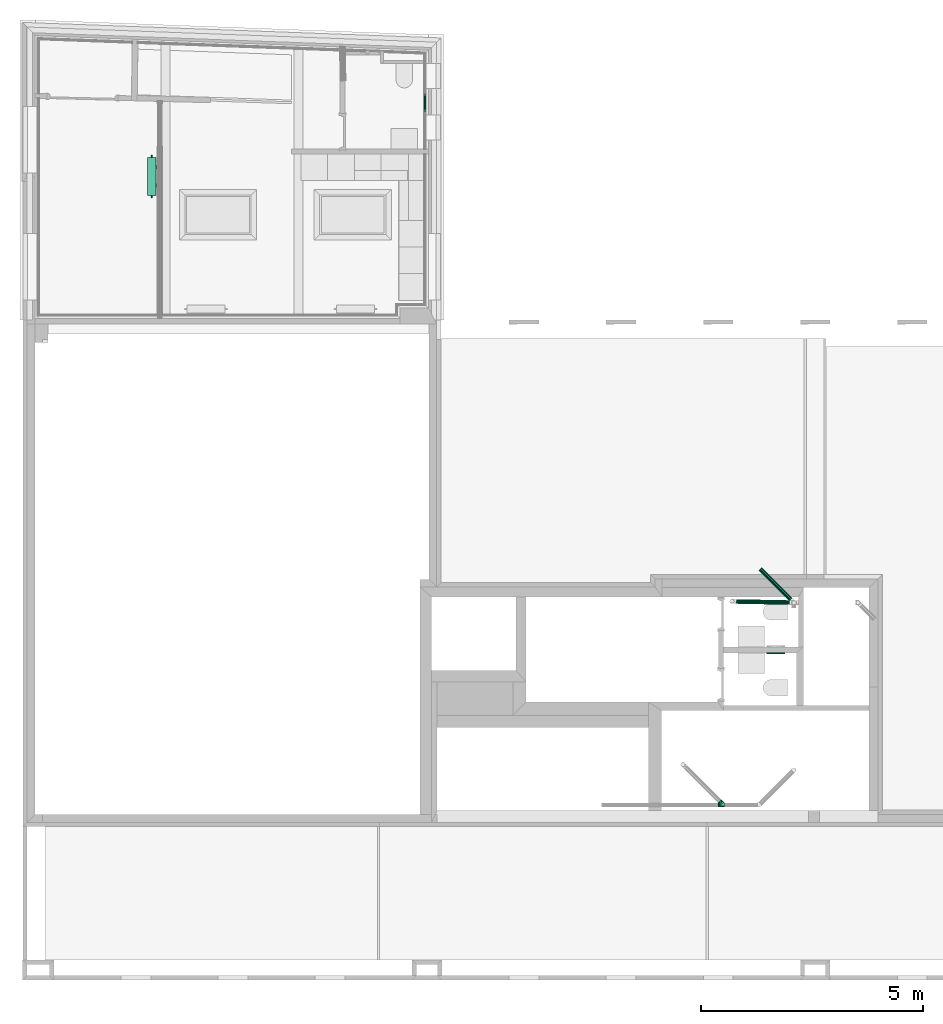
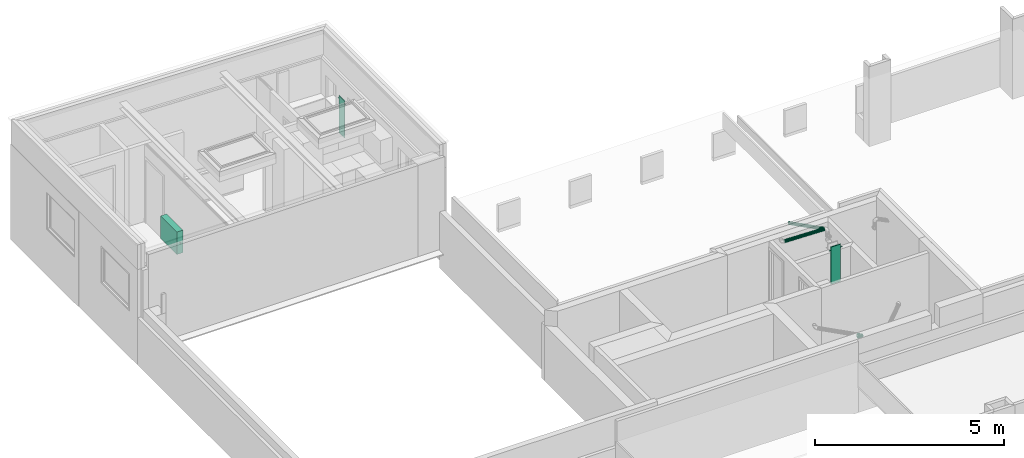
# One storey, part 13 of 22: 3 flow terminals, 2 flow segments, 1 flow fitting.
"""IFC2X3 building model written with IfcOpenShell, lengths in metres."""

import ifcopenshell
import ifcopenshell.guid

model = None  # the IFC model being written
_history = None  # IfcOwnerHistory: only IFC2X3 demands one
_inside = {}  # id of a spatial element -> (the spatial element, [elements in it])
_under = {}  # id of a project, library or spatial element -> (it, [spatial elements below it])
_declared = {}  # id of a project -> (the project, [libraries it declares])
_typed = {}  # id of a type object -> (the type object, [elements of that type])
_made_of = {}  # id of a material, layer set ... -> (it, [elements and type objects made of it])


def new_model(schema):
    """Start an empty IFC model of exactly this schema.

    Asked for "IFC4X3", IfcOpenShell would pick the latest addendum, in which some entities
    have other attributes; the version numbers below select the first issue.
    IFC2X3 requires an IfcOwnerHistory on every rooted entity: one is made here for all.
    """
    global model, _history
    if schema == "IFC4X3":
        model = ifcopenshell.file(schema_version=(4, 3, 0, 0))
    else:
        model = ifcopenshell.file(schema=schema)
    _inside.clear()
    _under.clear()
    _declared.clear()
    _typed.clear()
    _made_of.clear()
    _history = None
    if model.schema == "IFC2X3":
        org = make("IfcOrganization", Name="unknown")
        user = make(
            "IfcPersonAndOrganization",
            ThePerson=make("IfcPerson", FamilyName="unknown"),
            TheOrganization=org,
        )
        app = make(
            "IfcApplication",
            ApplicationDeveloper=org,
            Version="unknown",
            ApplicationFullName="unknown",
            ApplicationIdentifier="unknown",
        )
        _history = make(
            "IfcOwnerHistory",
            OwningUser=user,
            OwningApplication=app,
            ChangeAction="ADDED",
            CreationDate=0,
        )
    return model


def make(cls, **values):
    """One entity of the class cls with the attributes given. An attribute that is None is left unset."""
    return model.create_entity(
        cls, **{name: value for name, value in values.items() if value is not None}
    )


def entity(cls, *values):
    """Any entity or typed value of the class cls, its attributes in the order of the schema. None: left unset."""
    e = model.create_entity(cls)
    for i, value in enumerate(values):
        if value is not None:
            e[i] = value
    return e


def rooted(cls, **values):
    """An entity with a GlobalId (a new one), such as an element, a storey or a relation."""
    return make(cls, GlobalId=ifcopenshell.guid.new(), OwnerHistory=_history, **values)


def si_unit(unit_type, name, prefix=None):
    """IfcSIUnit, for example si_unit("LENGTHUNIT", "METRE", prefix="MILLI")."""
    return make("IfcSIUnit", UnitType=unit_type, Prefix=prefix, Name=name)


def converted_unit(unit_type, name, factor, base, dimensions=None, offset=None):
    """IfcConversionBasedUnit, such as the inch: factor (a typed value) times the base unit."""
    return make(
        "IfcConversionBasedUnit"
        if offset is None
        else "IfcConversionBasedUnitWithOffset",
        ConversionOffset=offset,
        Dimensions=None
        if dimensions is None
        else entity("IfcDimensionalExponents", *dimensions),
        UnitType=unit_type,
        Name=name,
        ConversionFactor=make(
            "IfcMeasureWithUnit", ValueComponent=factor, UnitComponent=base
        ),
    )


def derived_unit(unit_type, elements):
    """IfcDerivedUnit: a product of units, each with its exponent."""
    return make(
        "IfcDerivedUnit",
        Elements=[
            make("IfcDerivedUnitElement", Unit=unit, Exponent=power)
            for unit, power in elements
        ],
        UnitType=unit_type,
    )


def money_unit(currency):
    """IfcMonetaryUnit."""
    return make("IfcMonetaryUnit", Currency=currency)


def assignment(units):
    """IfcUnitAssignment: the units of a project."""
    return None if units is None else make("IfcUnitAssignment", Units=units)


def point(xyz):
    """IfcCartesianPoint."""
    return None if xyz is None else make("IfcCartesianPoint", Coordinates=xyz)


def direction(xyz):
    """IfcDirection."""
    return None if xyz is None else make("IfcDirection", DirectionRatios=xyz)


def frame(location, z_axis=None, x_axis=None):
    """IfcAxis2Placement3D, a coordinate frame: its origin and axes. An axis left out is left unset."""
    return make(
        "IfcAxis2Placement3D",
        Location=point(location),
        Axis=direction(z_axis),
        RefDirection=direction(x_axis),
    )


def origin_with_axes():
    """The frame at (0, 0, 0) with the z axis (0, 0, 1) and the x axis (1, 0, 0) written out."""
    return frame((0.0, 0.0, 0.0), z_axis=(0.0, 0.0, 1.0), x_axis=(1.0, 0.0, 0.0))


def place(relative_to, where):
    """IfcLocalPlacement: puts the frame where relative to a parent placement (None: the world)."""
    return make(
        "IfcLocalPlacement", PlacementRelTo=relative_to, RelativePlacement=where
    )


def context(
    kind, dimensions, precision=None, world=None, true_north=None, identifier=None
):
    """IfcGeometricRepresentationContext, for example the 3D "Model" context."""
    return make(
        "IfcGeometricRepresentationContext",
        ContextIdentifier=identifier,
        ContextType=kind,
        CoordinateSpaceDimension=dimensions,
        Precision=precision,
        WorldCoordinateSystem=world,
        TrueNorth=true_north,
    )


def subcontext(parent, identifier, kind, view, scale=None):
    """IfcGeometricRepresentationSubContext, for example "Body" below "Model"."""
    return make(
        "IfcGeometricRepresentationSubContext",
        ContextIdentifier=identifier,
        ContextType=kind,
        ParentContext=parent,
        TargetScale=scale,
        TargetView=view,
    )


def project(units=None, contexts=None):
    """IfcProject with its units and contexts."""
    return rooted(
        "IfcProject",
        Name="project",
        RepresentationContexts=contexts,
        UnitsInContext=assignment(units),
    )


def spatial(cls, under=None, at=None, **own):
    """A site, building, storey or space (cls), placed at a placement, below another one or the project."""
    s = rooted(cls, ObjectPlacement=at, **own)
    if under is not None:
        _under.setdefault(under.id(), (under, []))[1].append(s)
    return s


def faces_of(points, faces, orient=None, outer=None):
    """IfcFace entities. A face is a list of loops; a loop is a list of indices into points, from 0.

    orient and outer hold one flag for each loop. By default every Orientation is true, the
    first loop of a face is its IfcFaceOuterBound and the others are IfcFaceBound.
    """
    made = []
    for i, loops in enumerate(faces):
        bounds = []
        for j, loop in enumerate(loops):
            is_outer = j == 0 if outer is None else outer[i][j]
            bounds.append(
                make(
                    "IfcFaceOuterBound" if is_outer else "IfcFaceBound",
                    Bound=make("IfcPolyLoop", Polygon=[points[k] for k in loop]),
                    Orientation=True if orient is None else orient[i][j],
                )
            )
        made.append(make("IfcFace", Bounds=bounds))
    return made


def open_shell(faces, orient=None, outer=None):
    """The faces of one IfcOpenShell. surface_model builds it on its shared points."""
    return ("IfcOpenShell", faces, orient, outer)


def faceted_brep(points, faces, orient=None, outer=None, voids=None):
    """IfcFacetedBrep: a solid bounded by flat faces; with voids (closed shells), ...WithVoids."""
    shared = [point(p) for p in points]
    hull = make("IfcClosedShell", CfsFaces=faces_of(shared, faces, orient, outer))
    if voids is None:
        return make("IfcFacetedBrep", Outer=hull)
    return make(
        "IfcFacetedBrepWithVoids",
        Outer=hull,
        Voids=[
            make(cls, CfsFaces=faces_of(shared, fs, o, b)) for cls, fs, o, b in voids
        ],
    )


def surface_model(cls, points, shells):
    """IfcFaceBasedSurfaceModel or IfcShellBasedSurfaceModel (cls): surfaces that need not close."""
    shared = [point(p) for p in points]
    made = [make(c, CfsFaces=faces_of(shared, fs, o, b)) for c, fs, o, b in shells]
    if cls == "IfcFaceBasedSurfaceModel":
        return make(cls, FbsmFaces=made)
    return make(cls, SbsmBoundary=made)


def shape(context_of_items, identifier, shape_type, items):
    """IfcShapeRepresentation: the items that make up one representation, for example the "Body"."""
    return make(
        "IfcShapeRepresentation",
        ContextOfItems=context_of_items,
        RepresentationIdentifier=identifier,
        RepresentationType=shape_type,
        Items=items,
    )


def material(Name=None, Category=None):
    """IfcMaterial."""
    return make("IfcMaterial", Name=Name, Category=Category)


def made_of(thing, what):
    """Note that an element or type object is made of a material, layer set ...; save() writes the relation."""
    if what is not None:
        _made_of.setdefault(what.id(), (what, []))[1].append(thing)
    return thing


def type_object(cls, material=None, **own):
    """A type object (cls), such as IfcWallType, which elements share."""
    return made_of(rooted(cls, **own), material)


def element(
    cls,
    number,
    at=None,
    inside=None,
    cuts=None,
    type_object=None,
    material=None,
    context=None,
    identifier="Body",
    shape_type=None,
    held_by="IfcProductDefinitionShape",
    body=None,
    shapes=None,
    **own,
):
    """One element of the class cls, such as IfcWall. Its Tag is "e" and its number.

    at: its placement. inside: the storey or other place that contains it. cuts: it is an
    opening in that element (IfcRelVoidsElement). A single representation is given by context,
    identifier, shape_type and body (its items); several are given by shapes. held_by: the class
    of the entity that holds the representations. save() writes the other relations.
    """
    e = rooted(cls, Tag="e%d" % number, ObjectPlacement=at, **own)
    if body is not None:
        shapes = [shape(context, identifier, shape_type, body)]
    if shapes is not None:
        e.Representation = make(held_by, Representations=shapes)
    if inside is not None:
        _inside.setdefault(inside.id(), (inside, []))[1].append(e)
    if cuts is not None:
        rooted(
            "IfcRelVoidsElement", RelatingBuildingElement=cuts, RelatedOpeningElement=e
        )
    if type_object is not None:
        _typed.setdefault(type_object.id(), (type_object, []))[1].append(e)
    return made_of(e, material)


def aggregate(whole, parts):
    """IfcRelAggregates: a whole, such as a stair, and the parts it consists of."""
    return rooted("IfcRelAggregates", RelatingObject=whole, RelatedObjects=parts)


def save(model, path):
    """Write the relations noted so far, then the file.

    IfcRelAggregates (storeys below a building ...), IfcRelContainedInSpatialStructure (elements
    in a storey), IfcRelDefinesByType, IfcRelAssociatesMaterial and IfcRelDeclares: one each for
    every whole, place, type object, material and project.
    """
    for whole, parts in _under.values():
        aggregate(whole, parts)
    for where, things in _inside.values():
        rooted(
            "IfcRelContainedInSpatialStructure",
            RelatedElements=things,
            RelatingStructure=where,
        )
    for kind, things in _typed.values():
        rooted("IfcRelDefinesByType", RelatedObjects=things, RelatingType=kind)
    for what, things in _made_of.values():
        rooted("IfcRelAssociatesMaterial", RelatedObjects=things, RelatingMaterial=what)
    for by, libraries in _declared.values():
        rooted("IfcRelDeclares", RelatingContext=by, RelatedDefinitions=libraries)
    model.write(path)


model = new_model("IFC2X3")

# Units and contexts
model_context = context("Model", 3, precision=1e-05, world=origin_with_axes(), true_north=direction((0.0, 1.0)))
body_context = subcontext(model_context, "Body", "Model", "MODEL_VIEW", scale=1.0)
ifc_project = project(units=[si_unit("LENGTHUNIT", "METRE"), si_unit("AREAUNIT", "SQUARE_METRE"), si_unit("VOLUMEUNIT", "CUBIC_METRE"), si_unit("ABSORBEDDOSEUNIT", "GRAY"), si_unit("AMOUNTOFSUBSTANCEUNIT", "MOLE"), si_unit("DOSEEQUIVALENTUNIT", "SIEVERT"), si_unit("ELECTRICCAPACITANCEUNIT", "FARAD"), si_unit("ELECTRICCHARGEUNIT", "COULOMB"), si_unit("ELECTRICCONDUCTANCEUNIT", "SIEMENS"), si_unit("ELECTRICCURRENTUNIT", "AMPERE"), si_unit("ELECTRICRESISTANCEUNIT", "OHM"), si_unit("ELECTRICVOLTAGEUNIT", "VOLT"), si_unit("ENERGYUNIT", "JOULE"), si_unit("FORCEUNIT", "NEWTON"), si_unit("FREQUENCYUNIT", "HERTZ"), si_unit("ILLUMINANCEUNIT", "LUX"), si_unit("INDUCTANCEUNIT", "HENRY"), si_unit("LUMINOUSFLUXUNIT", "LUMEN"), si_unit("LUMINOUSINTENSITYUNIT", "CANDELA"), si_unit("MAGNETICFLUXDENSITYUNIT", "TESLA"), si_unit("MAGNETICFLUXUNIT", "WEBER"), si_unit("MASSUNIT", "GRAM"), converted_unit("PLANEANGLEUNIT", "degree", entity("IfcReal", 0.0174532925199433), si_unit("PLANEANGLEUNIT", "RADIAN"), dimensions=[0, 0, 0, 0, 0, 0, 0]), si_unit("POWERUNIT", "WATT"), si_unit("PRESSUREUNIT", "PASCAL"), si_unit("RADIOACTIVITYUNIT", "BECQUEREL"), si_unit("SOLIDANGLEUNIT", "STERADIAN"), si_unit("THERMODYNAMICTEMPERATUREUNIT", "KELVIN"), si_unit("TIMEUNIT", "SECOND"), derived_unit("ACCELERATIONUNIT", [(si_unit("LENGTHUNIT", "METRE"), 1), (si_unit("TIMEUNIT", "SECOND"), -2)]), derived_unit("ANGULARVELOCITYUNIT", [(converted_unit("PLANEANGLEUNIT", "degree", entity("IfcReal", 0.0174532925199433), si_unit("PLANEANGLEUNIT", "RADIAN"), dimensions=[0, 0, 0, 0, 0, 0, 0]), 1), (si_unit("TIMEUNIT", "SECOND"), -1)]), derived_unit("CURVATUREUNIT", [(converted_unit("PLANEANGLEUNIT", "degree", entity("IfcReal", 0.0174532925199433), si_unit("PLANEANGLEUNIT", "RADIAN"), dimensions=[0, 0, 0, 0, 0, 0, 0]), 1), (si_unit("LENGTHUNIT", "METRE"), -1)]), derived_unit("DYNAMICVISCOSITYUNIT", [(si_unit("PRESSUREUNIT", "PASCAL"), 1), (si_unit("TIMEUNIT", "SECOND"), 1)]), derived_unit("HEATFLUXDENSITYUNIT", [(si_unit("POWERUNIT", "WATT"), 1), (si_unit("LENGTHUNIT", "METRE"), -2)]), derived_unit("HEATINGVALUEUNIT", [(si_unit("ENERGYUNIT", "JOULE"), 1), (si_unit("MASSUNIT", "GRAM"), -1)]), derived_unit("INTEGERCOUNTRATEUNIT", [(si_unit("TIMEUNIT", "SECOND"), -1)]), derived_unit("IONCONCENTRATIONUNIT", [(si_unit("MASSUNIT", "GRAM"), 1), (si_unit("VOLUMEUNIT", "CUBIC_METRE"), -1)]), derived_unit("ISOTHERMALMOISTURECAPACITYUNIT", [(si_unit("VOLUMEUNIT", "CUBIC_METRE"), 1), (si_unit("MASSUNIT", "GRAM"), -1)]), derived_unit("KINEMATICVISCOSITYUNIT", [(si_unit("AREAUNIT", "SQUARE_METRE"), 1), (si_unit("TIMEUNIT", "SECOND"), -1)]), derived_unit("LINEARFORCEUNIT", [(si_unit("FORCEUNIT", "NEWTON"), 1), (si_unit("LENGTHUNIT", "METRE"), -1)]), derived_unit("LINEARMOMENTUNIT", [(si_unit("FORCEUNIT", "NEWTON"), 1), (si_unit("LENGTHUNIT", "METRE"), -1)]), derived_unit("LINEARSTIFFNESSUNIT", [(si_unit("FORCEUNIT", "NEWTON"), 1), (si_unit("LENGTHUNIT", "METRE"), -1)]), derived_unit("LINEARVELOCITYUNIT", [(si_unit("LENGTHUNIT", "METRE"), 1), (si_unit("TIMEUNIT", "SECOND"), -1)]), derived_unit("LUMINOUSINTENSITYDISTRIBUTIONUNIT", [(si_unit("LUMINOUSINTENSITYUNIT", "CANDELA"), 1), (si_unit("LUMINOUSFLUXUNIT", "LUMEN"), -1)]), derived_unit("MASSDENSITYUNIT", [(si_unit("MASSUNIT", "GRAM"), 1), (si_unit("VOLUMEUNIT", "CUBIC_METRE"), -1)]), derived_unit("MASSFLOWRATEUNIT", [(si_unit("MASSUNIT", "GRAM"), 1), (si_unit("TIMEUNIT", "SECOND"), -1)]), derived_unit("MASSPERLENGTHUNIT", [(si_unit("MASSUNIT", "GRAM"), 1), (si_unit("LENGTHUNIT", "METRE"), -1)]), derived_unit("MODULUSOFELASTICITYUNIT", [(si_unit("FORCEUNIT", "NEWTON"), 1), (si_unit("AREAUNIT", "SQUARE_METRE"), -1)]), derived_unit("MODULUSOFLINEARSUBGRADEREACTIONUNIT", [(si_unit("FORCEUNIT", "NEWTON"), 1), (si_unit("LENGTHUNIT", "METRE"), -2)]), derived_unit("MODULUSOFROTATIONALSUBGRADEREACTIONUNIT", [(si_unit("FORCEUNIT", "NEWTON"), 1), (si_unit("LENGTHUNIT", "METRE"), 1)]), derived_unit("MODULUSOFSUBGRADEREACTIONUNIT", [(si_unit("FORCEUNIT", "NEWTON"), 1), (si_unit("VOLUMEUNIT", "CUBIC_METRE"), -1)]), derived_unit("MOISTUREDIFFUSIVITYUNIT", [(si_unit("VOLUMEUNIT", "CUBIC_METRE"), 1), (si_unit("TIMEUNIT", "SECOND"), -1)]), derived_unit("MOLECULARWEIGHTUNIT", [(si_unit("MASSUNIT", "GRAM"), 1), (si_unit("AMOUNTOFSUBSTANCEUNIT", "MOLE"), -1)]), derived_unit("PLANARFORCEUNIT", [(si_unit("FORCEUNIT", "NEWTON"), 1), (si_unit("LENGTHUNIT", "METRE"), -2)]), derived_unit("ROTATIONALFREQUENCYUNIT", [(si_unit("TIMEUNIT", "SECOND"), -1)]), derived_unit("ROTATIONALMASSUNIT", [(si_unit("MASSUNIT", "GRAM"), 1), (si_unit("LENGTHUNIT", "METRE"), 2)]), derived_unit("ROTATIONALSTIFFNESSUNIT", [(si_unit("FORCEUNIT", "NEWTON"), 1), (si_unit("LENGTHUNIT", "METRE"), 1), (converted_unit("PLANEANGLEUNIT", "degree", entity("IfcReal", 0.0174532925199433), si_unit("PLANEANGLEUNIT", "RADIAN"), dimensions=[0, 0, 0, 0, 0, 0, 0]), -1)]), derived_unit("SECTIONAREAINTEGRALUNIT", [(si_unit("LENGTHUNIT", "METRE"), 5)]), derived_unit("SECTIONMODULUSUNIT", [(si_unit("LENGTHUNIT", "METRE"), 3)]), derived_unit("SHEARMODULUSUNIT", [(si_unit("FORCEUNIT", "NEWTON"), 1), (si_unit("AREAUNIT", "SQUARE_METRE"), -1)]), derived_unit("SOUNDPOWERUNIT", [(si_unit("ENERGYUNIT", "JOULE"), 1), (si_unit("TIMEUNIT", "SECOND"), -1)]), derived_unit("SPECIFICHEATCAPACITYUNIT", [(si_unit("FORCEUNIT", "NEWTON"), 1), (si_unit("MASSUNIT", "GRAM"), -1), (si_unit("THERMODYNAMICTEMPERATUREUNIT", "KELVIN"), -1)]), derived_unit("TEMPERATUREGRADIENTUNIT", [(si_unit("THERMODYNAMICTEMPERATUREUNIT", "KELVIN"), 1), (si_unit("LENGTHUNIT", "METRE"), -1)]), derived_unit("THERMALADMITTANCEUNIT", [(si_unit("POWERUNIT", "WATT"), 1), (si_unit("AREAUNIT", "SQUARE_METRE"), -1), (si_unit("THERMODYNAMICTEMPERATUREUNIT", "KELVIN"), -1)]), derived_unit("THERMALCONDUCTANCEUNIT", [(si_unit("POWERUNIT", "WATT"), 1), (si_unit("LENGTHUNIT", "METRE"), -1), (si_unit("THERMODYNAMICTEMPERATUREUNIT", "KELVIN"), -1)]), derived_unit("THERMALEXPANSIONCOEFFICIENTUNIT", [(si_unit("THERMODYNAMICTEMPERATUREUNIT", "KELVIN"), -1)]), derived_unit("THERMALRESISTANCEUNIT", [(si_unit("AREAUNIT", "SQUARE_METRE"), 1), (si_unit("POWERUNIT", "WATT"), -1)]), derived_unit("THERMALTRANSMITTANCEUNIT", [(si_unit("POWERUNIT", "WATT"), 1), (si_unit("AREAUNIT", "SQUARE_METRE"), -1), (si_unit("THERMODYNAMICTEMPERATUREUNIT", "KELVIN"), -1)]), derived_unit("TORQUEUNIT", [(si_unit("FORCEUNIT", "NEWTON"), 1), (si_unit("LENGTHUNIT", "METRE"), 1)]), derived_unit("VAPORPERMEABILITYUNIT", [(si_unit("MASSUNIT", "GRAM"), 1), (si_unit("TIMEUNIT", "SECOND"), -1)]), derived_unit("VOLUMETRICFLOWRATEUNIT", [(si_unit("VOLUMEUNIT", "CUBIC_METRE"), 1), (si_unit("TIMEUNIT", "SECOND"), -1)]), derived_unit("WARPINGCONSTANTUNIT", [(si_unit("LENGTHUNIT", "METRE"), 6)]), derived_unit("WARPINGMOMENTUNIT", [(si_unit("FORCEUNIT", "NEWTON"), 1), (si_unit("LENGTHUNIT", "METRE"), 2)]), money_unit("GBP")], contexts=[model_context])

# Site, building, storey, space
site_placement = place(None, origin_with_axes())
site = spatial("IfcSite", under=ifc_project, at=site_placement, Name="Site", CompositionType="ELEMENT")
building_placement = place(site_placement, origin_with_axes())
building = spatial("IfcBuilding", under=site, at=building_placement, Name="Building01", CompositionType="ELEMENT")
storey_placement = place(building_placement, frame((0.0, 0.0, 2.6), z_axis=(0.0, 0.0, 1.0), x_axis=(1.0, 0.0, 0.0)))
storey = spatial("IfcBuildingStorey", under=building, at=storey_placement, Name="MF", CompositionType="ELEMENT", Elevation=2.6)
space_1_placement = place(storey_placement, frame((15.816265, 6.196984, 0.0), z_axis=(0.0, 0.0, 1.0), x_axis=(1.0, 0.0, 0.0)))
space_1 = spatial("IfcSpace", under=storey, at=space_1_placement, Name="WC", CompositionType="ELEMENT", InteriorOrExteriorSpace="NOTDEFINED")

# Flow segments
ifc_material_1 = material(Name="M_BSUK_ColdWater")
pipe_segment_type = type_object("IfcPipeSegmentType", Name="M-BmpStraightpipe-DefaultPipe", PredefinedType="RIGIDSEGMENT")
placement = place(building_placement, origin_with_axes())
flow_segment_1_placement = place(placement, frame((16.650088, 9.273769, 4.782191), z_axis=(0.00883814, -0.00883814, 0.99992188), x_axis=(0.70705155, -0.70705154, -0.01249902)))
element("IfcFlowSegment", 1, at=flow_segment_1_placement, inside=space_1, type_object=pipe_segment_type, material=ifc_material_1, Name="M-BmpStraightpipe-DefaultPipe", ObjectType="M-BmpStraightpipe-DefaultPipe", context=body_context, shape_type="Brep", body=[
    faceted_brep([(0.971684, 0.0, -0.05), (0.0, 0.0, -0.05), (0.0, 0.019134, -0.046194), (0.971684, 0.019134, -0.046194), (0.0, 0.035355, -0.035355), (0.971684, 0.035355, -0.035355), (0.0, 0.046194, -0.019134), (0.971684, 0.046194, -0.019134), (0.0, 0.05, 0.0), (0.971684, 0.05, 0.0), (0.0, 0.046194, 0.019134), (0.971684, 0.046194, 0.019134), (0.0, 0.035355, 0.035355), (0.971684, 0.035355, 0.035355), (0.0, 0.019134, 0.046194), (0.971684, 0.019134, 0.046194), (0.0, 0.0, 0.05), (0.971684, 0.0, 0.05), (0.0, -0.019134, 0.046194), (0.971684, -0.019134, 0.046194), (0.0, -0.035355, 0.035355), (0.971684, -0.035355, 0.035355), (0.0, -0.046194, 0.019134), (0.971684, -0.046194, 0.019134), (0.0, -0.05, 0.0), (0.971684, -0.05, 0.0), (0.0, -0.046194, -0.019134), (0.971684, -0.046194, -0.019134), (0.0, -0.035355, -0.035355), (0.971684, -0.035355, -0.035355), (0.0, -0.019134, -0.046194), (0.971684, -0.019134, -0.046194)], [[[0, 1, 2, 3]], [[3, 2, 4, 5]], [[5, 4, 6, 7]], [[7, 6, 8, 9]], [[9, 8, 10, 11]], [[11, 10, 12, 13]], [[13, 12, 14, 15]], [[15, 14, 16, 17]], [[17, 16, 18, 19]], [[19, 18, 20, 21]], [[21, 20, 22, 23]], [[23, 22, 24, 25]], [[25, 24, 26, 27]], [[27, 26, 28, 29]], [[29, 28, 30, 31]], [[31, 30, 1, 0]]]),
])
flow_segment_2_placement = place(placement, frame((16.103627, 8.542061, 4.823587), z_axis=(0.0124967, -0.00024114, 0.99992188), x_axis=(0.99973578, -0.01929124, -0.01249902)))
element("IfcFlowSegment", 2, at=flow_segment_2_placement, inside=space_1, type_object=pipe_segment_type, material=ifc_material_1, Name="M-BmpStraightpipe-DefaultPipe", ObjectType="M-BmpStraightpipe-DefaultPipe", context=body_context, shape_type="Brep", body=[
    faceted_brep([(1.20491, 0.0, -0.05), (0.0, 0.0, -0.05), (0.0, 0.019134, -0.046194), (1.20491, 0.019134, -0.046194), (0.0, 0.035355, -0.035355), (1.20491, 0.035355, -0.035355), (0.0, 0.046194, -0.019134), (1.20491, 0.046194, -0.019134), (0.0, 0.05, 0.0), (1.20491, 0.05, 0.0), (0.0, 0.046194, 0.019134), (1.20491, 0.046194, 0.019134), (0.0, 0.035355, 0.035355), (1.20491, 0.035355, 0.035355), (0.0, 0.019134, 0.046194), (1.20491, 0.019134, 0.046194), (0.0, 0.0, 0.05), (1.20491, 0.0, 0.05), (0.0, -0.019134, 0.046194), (1.20491, -0.019134, 0.046194), (0.0, -0.035355, 0.035355), (1.20491, -0.035355, 0.035355), (0.0, -0.046194, 0.019134), (1.20491, -0.046194, 0.019134), (0.0, -0.05, 0.0), (1.20491, -0.05, 0.0), (0.0, -0.046194, -0.019134), (1.20491, -0.046194, -0.019134), (0.0, -0.035355, -0.035355), (1.20491, -0.035355, -0.035355), (0.0, -0.019134, -0.046194), (1.20491, -0.019134, -0.046194)], [[[0, 1, 2, 3]], [[3, 2, 4, 5]], [[5, 4, 6, 7]], [[7, 6, 8, 9]], [[9, 8, 10, 11]], [[11, 10, 12, 13]], [[13, 12, 14, 15]], [[15, 14, 16, 17]], [[17, 16, 18, 19]], [[19, 18, 20, 21]], [[21, 20, 22, 23]], [[23, 22, 24, 25]], [[25, 24, 26, 27]], [[27, 26, 28, 29]], [[29, 28, 30, 31]], [[31, 30, 1, 0]]]),
])

# Space
space_2_placement = place(storey_placement, frame((14.421434, 6.076984, 0.0), z_axis=(0.0, 0.0, 1.0), x_axis=(0.0, -1.0, 0.0)))
space_2 = spatial("IfcSpace", under=storey, at=space_2_placement, Name="storage", CompositionType="ELEMENT", InteriorOrExteriorSpace="NOTDEFINED")

# Flow fitting
pipe_fitting_type = type_object("IfcPipeFittingType", Name="M-BmpTee-DefaultTee", PredefinedType="JUNCTION")
flow_fitting_placement = place(placement, frame((15.837964, 3.948962, 4.664587), z_axis=(-6.471e-05, -0.9999866, -0.00517679), x_axis=(-0.99992188, 0.0, 0.01249902)))
element("IfcFlowFitting", 3, at=flow_fitting_placement, inside=space_2, type_object=pipe_fitting_type, material=ifc_material_1, Name="M-BmpTee-DefaultTee", ObjectType="M-BmpTee-DefaultTee", context=body_context, shape_type="SurfaceModel", body=[
    surface_model("IfcShellBasedSurfaceModel", [(0.066908, 0.046194, -0.019134), (0.123144, 0.046194, -0.075363), (0.109615, 0.05, -0.088894), (0.106073, 0.035355, -0.035355), (0.134613, 0.035355, -0.063892), (0.132242, 0.019134, -0.046194), (0.142277, 0.019134, -0.056227), (0.139112, 0.009755, -0.049039), (0.141432, 0.0, -0.05), (0.144968, 0.0, -0.053536), (0.139112, -0.009755, -0.049039), (0.132242, -0.019134, -0.046194), (0.142277, -0.019134, -0.056227), (0.121086, -0.027779, -0.041573), (0.106073, -0.035355, -0.035355), (0.134613, -0.035355, -0.063892), (0.087779, -0.041573, -0.027779), (0.066908, -0.046194, -0.019134), (0.123144, -0.046194, -0.075363), (0.044261, -0.049039, -0.009755), (0.02071, -0.05, 0.0), (0.109615, -0.05, -0.088894), (0.012785, -0.046194, -0.019134), (0.096086, -0.046194, -0.102424), (0.006066, -0.035355, -0.035355), (0.084617, -0.035355, -0.113895), (0.001577, -0.019134, -0.046194), (0.076953, -0.019134, -0.12156), (0.000399, -0.009755, -0.049039), (1e-06, 0.0, -0.05), (0.074262, 0.0, -0.124251), (0.000399, 0.009755, -0.049039), (0.001577, 0.019134, -0.046194), (0.076953, 0.019134, -0.12156), (0.003491, 0.027779, -0.041573), (0.006066, 0.035355, -0.035355), (0.084617, 0.035355, -0.113895), (0.009205, 0.041573, -0.027779), (0.012785, 0.046194, -0.019134), (0.096086, 0.046194, -0.102424), (0.01667, 0.049039, -0.009755), (0.02071, 0.05, 0.0), (0.003491, -0.027779, -0.041573), (0.009205, -0.041573, -0.027779), (0.01667, -0.049039, -0.009755), (0.121086, 0.027779, -0.041573), (0.087779, 0.041573, -0.027779), (0.044261, 0.049039, -0.009755), (-0.005, -0.05, 0.0), (0.146433, -0.05, 0.0), (0.146433, -0.046194, 0.019134), (-0.005, -0.046194, 0.019134), (0.146433, -0.035355, 0.035355), (-0.005, -0.035355, 0.035355), (0.146433, -0.019134, 0.046194), (-0.005, -0.019134, 0.046194), (0.146433, 0.0, 0.05), (-0.005, 0.0, 0.05), (0.146433, 0.019134, 0.046194), (-0.005, 0.019134, 0.046194), (0.146433, 0.035355, 0.035355), (-0.005, 0.035355, 0.035355), (0.146433, 0.046194, 0.019134), (-0.005, 0.046194, 0.019134), (0.146433, 0.05, 0.0), (-0.005, 0.05, 0.0), (0.146433, -0.046194, -0.019134), (0.146433, -0.035355, -0.035355), (0.146433, -0.019134, -0.046194), (0.146433, 0.0, -0.05), (0.146433, 0.019134, -0.046194), (0.146433, 0.035355, -0.035355), (0.146433, 0.046194, -0.019134), (-0.005, 0.046194, -0.019134), (-0.005, 0.035355, -0.035355), (-0.005, 0.019134, -0.046194), (-0.005, 0.0, -0.05), (-0.005, -0.019134, -0.046194), (-0.005, -0.035355, -0.035355), (-0.005, -0.046194, -0.019134)], [open_shell([[[0, 1, 2]], [[3, 4, 1]], [[5, 6, 4]], [[7, 8, 9]], [[10, 11, 12]], [[13, 14, 15]], [[16, 17, 18]], [[19, 20, 21]], [[22, 23, 21]], [[24, 25, 23]], [[26, 27, 25]], [[28, 29, 30]], [[31, 32, 33]], [[34, 35, 36]], [[37, 38, 39]], [[40, 41, 2]], [[38, 40, 2]], [[2, 39, 38]], [[35, 37, 39]], [[39, 36, 35]], [[32, 34, 36]], [[36, 33, 32]], [[31, 33, 30]], [[30, 29, 31]], [[27, 26, 28]], [[30, 27, 28]], [[25, 24, 42]], [[25, 42, 26]], [[23, 22, 43]], [[23, 43, 24]], [[21, 20, 44]], [[21, 44, 22]], [[17, 19, 21]], [[21, 18, 17]], [[14, 16, 18]], [[18, 15, 14]], [[11, 13, 15]], [[15, 12, 11]], [[10, 12, 9]], [[9, 8, 10]], [[6, 5, 7]], [[9, 6, 7]], [[4, 3, 45]], [[4, 45, 5]], [[1, 0, 46]], [[1, 46, 3]], [[2, 41, 47]], [[2, 47, 0]], [[48, 20, 49, 50, 51]], [[51, 50, 52, 53]], [[53, 52, 54, 55]], [[55, 54, 56, 57]], [[57, 56, 58, 59]], [[59, 58, 60, 61]], [[61, 60, 62, 63]], [[63, 62, 64, 41, 65]], [[17, 66, 49]], [[14, 67, 66]], [[11, 68, 67]], [[10, 8, 69]], [[7, 5, 70]], [[45, 3, 71]], [[46, 0, 72]], [[47, 41, 64]], [[38, 73, 65]], [[35, 74, 73]], [[34, 32, 75]], [[31, 29, 76]], [[28, 26, 77]], [[42, 24, 78]], [[43, 22, 79]], [[44, 20, 48]], [[22, 44, 48]], [[48, 79, 22]], [[24, 43, 79]], [[79, 78, 24]], [[42, 78, 77]], [[77, 26, 42]], [[28, 77, 76]], [[76, 29, 28]], [[75, 32, 31]], [[76, 75, 31]], [[74, 35, 34]], [[75, 74, 34]], [[73, 38, 37]], [[73, 37, 35]], [[65, 41, 40]], [[65, 40, 38]], [[0, 47, 64]], [[64, 72, 0]], [[3, 46, 72]], [[72, 71, 3]], [[5, 45, 71]], [[71, 70, 5]], [[7, 70, 69]], [[69, 8, 7]], [[68, 11, 10]], [[69, 68, 10]], [[67, 14, 13]], [[67, 13, 11]], [[66, 17, 16]], [[66, 16, 14]], [[49, 20, 19]], [[49, 19, 17]]])]),
])

# Space
space_3_placement = place(storey_placement, frame((0.352897, 21.240404, 0.585), z_axis=(0.0, 0.0, 1.0), x_axis=(-1.921e-05, -1.0, 0.0)))
space_3 = spatial("IfcSpace", under=storey, at=space_3_placement, Name="01", CompositionType="ELEMENT", InteriorOrExteriorSpace="NOTDEFINED")

# Flow terminals
ifc_material_2 = material(Name="M_BSUK_Ventilation")
space_heater_type_1 = type_object("IfcSpaceHeaterType", Name="M-BmvRadiatorpanel-Panel", PredefinedType="NOTDEFINED")
flow_terminal_1_placement = place(storey_placement, frame((2.912164, 17.704048, 1.25), z_axis=(0.0, 0.0, 1.0), x_axis=(0.0, -1.0, 0.0)))
element("IfcFlowTerminal", 4, at=flow_terminal_1_placement, inside=space_3, type_object=space_heater_type_1, material=ifc_material_2, Name="M-BmvRadiatorpanel-Panel", ObjectType="M-BmvRadiatorpanel-Panel", context=body_context, shape_type="SurfaceModel", body=[
    surface_model("IfcShellBasedSurfaceModel", [(-0.865, -0.0925, 0.365), (-0.865, 0.0925, 0.365), (0.0, 0.0925, 0.365), (0.0, -0.0925, 0.365), (-0.865, -0.0925, -0.365), (-0.865, 0.0925, -0.365), (0.0, -0.0925, -0.365), (0.0, 0.0925, -0.365), (-0.1325, 0.12025, 0.175), (-0.7325, 0.12025, 0.175), (-0.7325, 0.14525, 0.175), (-0.1325, 0.14525, 0.175), (-0.7325, 0.14525, -0.175), (-0.1325, 0.14525, -0.175), (-0.7325, 0.12025, -0.175), (-0.1325, 0.12025, -0.175), (-0.2225, 0.0925, 0.0775), (-0.2225, 0.12025, 0.0775), (-0.205279, 0.12025, 0.080925), (-0.205279, 0.0925, 0.080925), (-0.19068, 0.12025, 0.09068), (-0.19068, 0.0925, 0.09068), (-0.180925, 0.12025, 0.105279), (-0.180925, 0.0925, 0.105279), (-0.1775, 0.12025, 0.1225), (-0.1775, 0.0925, 0.1225), (-0.180925, 0.12025, 0.139721), (-0.180925, 0.0925, 0.139721), (-0.19068, 0.12025, 0.15432), (-0.19068, 0.0925, 0.15432), (-0.205279, 0.12025, 0.164075), (-0.205279, 0.0925, 0.164075), (-0.2225, 0.12025, 0.1675), (-0.2225, 0.0925, 0.1675), (-0.239721, 0.12025, 0.164075), (-0.239721, 0.0925, 0.164075), (-0.25432, 0.12025, 0.15432), (-0.25432, 0.0925, 0.15432), (-0.264075, 0.12025, 0.139721), (-0.264075, 0.0925, 0.139721), (-0.2675, 0.12025, 0.1225), (-0.2675, 0.0925, 0.1225), (-0.264075, 0.12025, 0.105279), (-0.264075, 0.0925, 0.105279), (-0.25432, 0.12025, 0.09068), (-0.25432, 0.0925, 0.09068), (-0.239721, 0.12025, 0.080925), (-0.239721, 0.0925, 0.080925), (-0.6425, 0.0925, 0.0775), (-0.6425, 0.12025, 0.0775), (-0.625279, 0.12025, 0.080925), (-0.625279, 0.0925, 0.080925), (-0.61068, 0.12025, 0.09068), (-0.61068, 0.0925, 0.09068), (-0.600925, 0.12025, 0.105279), (-0.600925, 0.0925, 0.105279), (-0.5975, 0.12025, 0.1225), (-0.5975, 0.0925, 0.1225), (-0.600925, 0.12025, 0.139721), (-0.600925, 0.0925, 0.139721), (-0.61068, 0.12025, 0.15432), (-0.61068, 0.0925, 0.15432), (-0.625279, 0.12025, 0.164075), (-0.625279, 0.0925, 0.164075), (-0.6425, 0.12025, 0.1675), (-0.6425, 0.0925, 0.1675), (-0.659721, 0.12025, 0.164075), (-0.659721, 0.0925, 0.164075), (-0.67432, 0.12025, 0.15432), (-0.67432, 0.0925, 0.15432), (-0.684075, 0.12025, 0.139721), (-0.684075, 0.0925, 0.139721), (-0.6875, 0.12025, 0.1225), (-0.6875, 0.0925, 0.1225), (-0.684075, 0.12025, 0.105279), (-0.684075, 0.0925, 0.105279), (-0.67432, 0.12025, 0.09068), (-0.67432, 0.0925, 0.09068), (-0.659721, 0.12025, 0.080925), (-0.659721, 0.0925, 0.080925), (0.05, 0.0, -0.0225), (0.0, 0.0, -0.0225), (0.0, 0.004784, -0.021548), (0.05, 0.004784, -0.021548), (0.0, 0.008839, -0.018839), (0.05, 0.008839, -0.018839), (0.0, 0.011548, -0.014784), (0.05, 0.011548, -0.014784), (0.0, 0.0125, -0.01), (0.05, 0.0125, -0.01), (0.0, 0.011548, -0.005216), (0.05, 0.011548, -0.005216), (0.0, 0.008839, -0.001161), (0.05, 0.008839, -0.001161), (0.0, 0.004784, 0.001548), (0.05, 0.004784, 0.001548), (0.0, 0.0, 0.0025), (0.05, 0.0, 0.0025), (0.0, -0.004784, 0.001548), (0.05, -0.004784, 0.001548), (0.0, -0.008839, -0.001161), (0.05, -0.008839, -0.001161), (0.0, -0.011548, -0.005216), (0.05, -0.011548, -0.005216), (0.0, -0.0125, -0.01), (0.05, -0.0125, -0.01), (0.0, -0.011548, -0.014784), (0.05, -0.011548, -0.014784), (0.0, -0.008839, -0.018839), (0.05, -0.008839, -0.018839), (0.0, -0.004784, -0.021548), (0.05, -0.004784, -0.021548), (-0.915, 0.0, 0.2525), (-0.865, 0.0, 0.2525), (-0.865, -0.004784, 0.253452), (-0.915, -0.004784, 0.253452), (-0.865, -0.008839, 0.256161), (-0.915, -0.008839, 0.256161), (-0.865, -0.011548, 0.260216), (-0.915, -0.011548, 0.260216), (-0.865, -0.0125, 0.265), (-0.915, -0.0125, 0.265), (-0.865, -0.011548, 0.269784), (-0.915, -0.011548, 0.269784), (-0.865, -0.008839, 0.273839), (-0.915, -0.008839, 0.273839), (-0.865, -0.004784, 0.276548), (-0.915, -0.004784, 0.276548), (-0.865, 0.0, 0.2775), (-0.915, 0.0, 0.2775), (-0.865, 0.004784, 0.276548), (-0.915, 0.004784, 0.276548), (-0.865, 0.008839, 0.273839), (-0.915, 0.008839, 0.273839), (-0.865, 0.011548, 0.269784), (-0.915, 0.011548, 0.269784), (-0.865, 0.0125, 0.265), (-0.915, 0.0125, 0.265), (-0.865, 0.011548, 0.260216), (-0.915, 0.011548, 0.260216), (-0.865, 0.008839, 0.256161), (-0.915, 0.008839, 0.256161), (-0.865, 0.004784, 0.253452), (-0.915, 0.004784, 0.253452)], [open_shell([[[0, 1, 2, 3]], [[4, 5, 1, 0]], [[6, 7, 5, 4]], [[3, 2, 7, 6]], [[1, 5, 7, 2]], [[3, 6, 4, 0]], [[8, 9, 10, 11]], [[11, 10, 12, 13]], [[13, 12, 14, 15]], [[15, 14, 9, 8]], [[9, 14, 12, 10]], [[11, 13, 15, 8]], [[16, 17, 18, 19]], [[19, 18, 20, 21]], [[21, 20, 22, 23]], [[23, 22, 24, 25]], [[25, 24, 26, 27]], [[27, 26, 28, 29]], [[29, 28, 30, 31]], [[31, 30, 32, 33]], [[33, 32, 34, 35]], [[35, 34, 36, 37]], [[37, 36, 38, 39]], [[39, 38, 40, 41]], [[41, 40, 42, 43]], [[43, 42, 44, 45]], [[45, 44, 46, 47]], [[47, 46, 17, 16]], [[48, 49, 50, 51]], [[51, 50, 52, 53]], [[53, 52, 54, 55]], [[55, 54, 56, 57]], [[57, 56, 58, 59]], [[59, 58, 60, 61]], [[61, 60, 62, 63]], [[63, 62, 64, 65]], [[65, 64, 66, 67]], [[67, 66, 68, 69]], [[69, 68, 70, 71]], [[71, 70, 72, 73]], [[73, 72, 74, 75]], [[75, 74, 76, 77]], [[77, 76, 78, 79]], [[79, 78, 49, 48]], [[80, 81, 82, 83]], [[83, 82, 84, 85]], [[85, 84, 86, 87]], [[87, 86, 88, 89]], [[89, 88, 90, 91]], [[91, 90, 92, 93]], [[93, 92, 94, 95]], [[95, 94, 96, 97]], [[97, 96, 98, 99]], [[99, 98, 100, 101]], [[101, 100, 102, 103]], [[103, 102, 104, 105]], [[105, 104, 106, 107]], [[107, 106, 108, 109]], [[109, 108, 110, 111]], [[111, 110, 81, 80]], [[112, 113, 114, 115]], [[115, 114, 116, 117]], [[117, 116, 118, 119]], [[119, 118, 120, 121]], [[121, 120, 122, 123]], [[123, 122, 124, 125]], [[125, 124, 126, 127]], [[127, 126, 128, 129]], [[129, 128, 130, 131]], [[131, 130, 132, 133]], [[133, 132, 134, 135]], [[135, 134, 136, 137]], [[137, 136, 138, 139]], [[139, 138, 140, 141]], [[141, 140, 142, 143]], [[143, 142, 113, 112]]])]),
])
space_heater_type_2 = type_object("IfcSpaceHeaterType", Name="M-BmvRadiator-Column", PredefinedType="NOTDEFINED")
flow_terminal_2_placement = place(storey_placement, frame((9.078132, 19.649214, 1.885), z_axis=(0.0, 0.0, 1.0), x_axis=(0.0, -1.0, 0.0)))
element("IfcFlowTerminal", 5, at=flow_terminal_2_placement, inside=space_3, type_object=space_heater_type_2, material=ifc_material_2, Name="M-BmvRadiator-Column", ObjectType="M-BmvRadiator-Column", context=body_context, shape_type="SurfaceModel", body=[
    surface_model("IfcShellBasedSurfaceModel", [(0.0, -0.0125, 0.6), (0.0, -0.0125, -0.6), (0.0, 0.0125, -0.6), (0.0, 0.0125, 0.6), (-0.3, -0.0125, 0.6), (-0.3, -0.0125, -0.6), (-0.3, 0.0125, -0.6), (-0.3, 0.0125, 0.6), (-0.06, 0.0125, 0.6), (-0.06, -0.0125, 0.6), (-0.06, -0.0125, -0.6), (-0.06, 0.0125, -0.6), (-0.12, 0.0125, 0.6), (-0.12, -0.0125, 0.6), (-0.12, -0.0125, -0.6), (-0.12, 0.0125, -0.6), (-0.18, 0.0125, 0.6), (-0.18, -0.0125, 0.6), (-0.18, -0.0125, -0.6), (-0.18, 0.0125, -0.6), (-0.24, 0.0125, 0.6), (-0.24, -0.0125, 0.6), (-0.24, -0.0125, -0.6), (-0.24, 0.0125, -0.6), (0.05, 0.0, 0.4825), (0.0, 0.0, 0.4825), (0.0, 0.003827, 0.483261), (0.05, 0.003827, 0.483261), (0.0, 0.007071, 0.485429), (0.05, 0.007071, 0.485429), (0.0, 0.009239, 0.488673), (0.05, 0.009239, 0.488673), (0.0, 0.01, 0.4925), (0.05, 0.01, 0.4925), (0.0, 0.009239, 0.496327), (0.05, 0.009239, 0.496327), (0.0, 0.007071, 0.499571), (0.05, 0.007071, 0.499571), (0.0, 0.003827, 0.501739), (0.05, 0.003827, 0.501739), (0.0, 0.0, 0.5025), (0.05, 0.0, 0.5025), (0.0, -0.003827, 0.501739), (0.05, -0.003827, 0.501739), (0.0, -0.007071, 0.499571), (0.05, -0.007071, 0.499571), (0.0, -0.009239, 0.496327), (0.05, -0.009239, 0.496327), (0.0, -0.01, 0.4925), (0.05, -0.01, 0.4925), (0.0, -0.009239, 0.488673), (0.05, -0.009239, 0.488673), (0.0, -0.007071, 0.485429), (0.05, -0.007071, 0.485429), (0.0, -0.003827, 0.483261), (0.05, -0.003827, 0.483261), (-0.35, 0.0, 0.4884), (-0.3, 0.0, 0.4884), (-0.3, -0.003827, 0.489161), (-0.35, -0.003827, 0.489161), (-0.3, -0.007071, 0.491329), (-0.35, -0.007071, 0.491329), (-0.3, -0.009239, 0.494573), (-0.35, -0.009239, 0.494573), (-0.3, -0.01, 0.4984), (-0.35, -0.01, 0.4984), (-0.3, -0.009239, 0.502227), (-0.35, -0.009239, 0.502227), (-0.3, -0.007071, 0.505471), (-0.35, -0.007071, 0.505471), (-0.3, -0.003827, 0.507639), (-0.35, -0.003827, 0.507639), (-0.3, 0.0, 0.5084), (-0.35, 0.0, 0.5084), (-0.3, 0.003827, 0.507639), (-0.35, 0.003827, 0.507639), (-0.3, 0.007071, 0.505471), (-0.35, 0.007071, 0.505471), (-0.3, 0.009239, 0.502227), (-0.35, 0.009239, 0.502227), (-0.3, 0.01, 0.4984), (-0.35, 0.01, 0.4984), (-0.3, 0.009239, 0.494573), (-0.35, 0.009239, 0.494573), (-0.3, 0.007071, 0.491329), (-0.35, 0.007071, 0.491329), (-0.3, 0.003827, 0.489161), (-0.35, 0.003827, 0.489161)], [open_shell([[[0, 1, 2, 3]], [[4, 5, 6, 7]], [[8, 3, 0, 9]], [[9, 0, 1, 10]], [[10, 1, 2, 11]], [[11, 2, 3, 8]], [[12, 8, 9, 13]], [[13, 9, 10, 14]], [[14, 10, 11, 15]], [[15, 11, 8, 12]], [[16, 12, 13, 17]], [[17, 13, 14, 18]], [[18, 14, 15, 19]], [[19, 15, 12, 16]], [[20, 16, 17, 21]], [[21, 17, 18, 22]], [[22, 18, 19, 23]], [[23, 19, 16, 20]], [[7, 20, 21, 4]], [[4, 21, 22, 5]], [[5, 22, 23, 6]], [[6, 23, 20, 7]], [[24, 25, 26, 27]], [[27, 26, 28, 29]], [[29, 28, 30, 31]], [[31, 30, 32, 33]], [[33, 32, 34, 35]], [[35, 34, 36, 37]], [[37, 36, 38, 39]], [[39, 38, 40, 41]], [[41, 40, 42, 43]], [[43, 42, 44, 45]], [[45, 44, 46, 47]], [[47, 46, 48, 49]], [[49, 48, 50, 51]], [[51, 50, 52, 53]], [[53, 52, 54, 55]], [[55, 54, 25, 24]], [[56, 57, 58, 59]], [[59, 58, 60, 61]], [[61, 60, 62, 63]], [[63, 62, 64, 65]], [[65, 64, 66, 67]], [[67, 66, 68, 69]], [[69, 68, 70, 71]], [[71, 70, 72, 73]], [[73, 72, 74, 75]], [[75, 74, 76, 77]], [[77, 76, 78, 79]], [[79, 78, 80, 81]], [[81, 80, 82, 83]], [[83, 82, 84, 85]], [[85, 84, 86, 87]], [[87, 86, 57, 56]]])]),
])
flow_terminal_3_placement = place(storey_placement, frame((16.84523, 7.370419, 1.885), z_axis=(0.0, 0.0, 1.0), x_axis=(1.0, 0.0, 0.0)))
element("IfcFlowTerminal", 6, at=flow_terminal_3_placement, inside=space_1, type_object=space_heater_type_2, material=ifc_material_2, Name="M-BmvRadiator-Column", ObjectType="M-BmvRadiator-Column", context=body_context, shape_type="SurfaceModel", body=[
    surface_model("IfcShellBasedSurfaceModel", [(0.0, -0.0125, 0.6), (0.0, -0.0125, -0.6), (0.0, 0.0125, -0.6), (0.0, 0.0125, 0.6), (0.3, -0.0125, 0.6), (0.3, -0.0125, -0.6), (0.3, 0.0125, -0.6), (0.3, 0.0125, 0.6), (0.06, 0.0125, 0.6), (0.06, -0.0125, 0.6), (0.06, -0.0125, -0.6), (0.06, 0.0125, -0.6), (0.12, 0.0125, 0.6), (0.12, -0.0125, 0.6), (0.12, -0.0125, -0.6), (0.12, 0.0125, -0.6), (0.18, 0.0125, 0.6), (0.18, -0.0125, 0.6), (0.18, -0.0125, -0.6), (0.18, 0.0125, -0.6), (0.24, 0.0125, 0.6), (0.24, -0.0125, 0.6), (0.24, -0.0125, -0.6), (0.24, 0.0125, -0.6), (-0.05, 0.0, 0.4825), (0.0, 0.0, 0.4825), (0.0, -0.003827, 0.483261), (-0.05, -0.003827, 0.483261), (0.0, -0.007071, 0.485429), (-0.05, -0.007071, 0.485429), (0.0, -0.009239, 0.488673), (-0.05, -0.009239, 0.488673), (0.0, -0.01, 0.4925), (-0.05, -0.01, 0.4925), (0.0, -0.009239, 0.496327), (-0.05, -0.009239, 0.496327), (0.0, -0.007071, 0.499571), (-0.05, -0.007071, 0.499571), (0.0, -0.003827, 0.501739), (-0.05, -0.003827, 0.501739), (0.0, 0.0, 0.5025), (-0.05, 0.0, 0.5025), (0.0, 0.003827, 0.501739), (-0.05, 0.003827, 0.501739), (0.0, 0.007071, 0.499571), (-0.05, 0.007071, 0.499571), (0.0, 0.009239, 0.496327), (-0.05, 0.009239, 0.496327), (0.0, 0.01, 0.4925), (-0.05, 0.01, 0.4925), (0.0, 0.009239, 0.488673), (-0.05, 0.009239, 0.488673), (0.0, 0.007071, 0.485429), (-0.05, 0.007071, 0.485429), (0.0, 0.003827, 0.483261), (-0.05, 0.003827, 0.483261), (0.35, 0.0, 0.4884), (0.3, 0.0, 0.4884), (0.3, 0.003827, 0.489161), (0.35, 0.003827, 0.489161), (0.3, 0.007071, 0.491329), (0.35, 0.007071, 0.491329), (0.3, 0.009239, 0.494573), (0.35, 0.009239, 0.494573), (0.3, 0.01, 0.4984), (0.35, 0.01, 0.4984), (0.3, 0.009239, 0.502227), (0.35, 0.009239, 0.502227), (0.3, 0.007071, 0.505471), (0.35, 0.007071, 0.505471), (0.3, 0.003827, 0.507639), (0.35, 0.003827, 0.507639), (0.3, 0.0, 0.5084), (0.35, 0.0, 0.5084), (0.3, -0.003827, 0.507639), (0.35, -0.003827, 0.507639), (0.3, -0.007071, 0.505471), (0.35, -0.007071, 0.505471), (0.3, -0.009239, 0.502227), (0.35, -0.009239, 0.502227), (0.3, -0.01, 0.4984), (0.35, -0.01, 0.4984), (0.3, -0.009239, 0.494573), (0.35, -0.009239, 0.494573), (0.3, -0.007071, 0.491329), (0.35, -0.007071, 0.491329), (0.3, -0.003827, 0.489161), (0.35, -0.003827, 0.489161)], [open_shell([[[0, 1, 2, 3]], [[4, 5, 6, 7]], [[8, 3, 0, 9]], [[9, 0, 1, 10]], [[10, 1, 2, 11]], [[11, 2, 3, 8]], [[12, 8, 9, 13]], [[13, 9, 10, 14]], [[14, 10, 11, 15]], [[15, 11, 8, 12]], [[16, 12, 13, 17]], [[17, 13, 14, 18]], [[18, 14, 15, 19]], [[19, 15, 12, 16]], [[20, 16, 17, 21]], [[21, 17, 18, 22]], [[22, 18, 19, 23]], [[23, 19, 16, 20]], [[7, 20, 21, 4]], [[4, 21, 22, 5]], [[5, 22, 23, 6]], [[6, 23, 20, 7]], [[24, 25, 26, 27]], [[27, 26, 28, 29]], [[29, 28, 30, 31]], [[31, 30, 32, 33]], [[33, 32, 34, 35]], [[35, 34, 36, 37]], [[37, 36, 38, 39]], [[39, 38, 40, 41]], [[41, 40, 42, 43]], [[43, 42, 44, 45]], [[45, 44, 46, 47]], [[47, 46, 48, 49]], [[49, 48, 50, 51]], [[51, 50, 52, 53]], [[53, 52, 54, 55]], [[55, 54, 25, 24]], [[56, 57, 58, 59]], [[59, 58, 60, 61]], [[61, 60, 62, 63]], [[63, 62, 64, 65]], [[65, 64, 66, 67]], [[67, 66, 68, 69]], [[69, 68, 70, 71]], [[71, 70, 72, 73]], [[73, 72, 74, 75]], [[75, 74, 76, 77]], [[77, 76, 78, 79]], [[79, 78, 80, 81]], [[81, 80, 82, 83]], [[83, 82, 84, 85]], [[85, 84, 86, 87]], [[87, 86, 57, 56]]])]),
])

save(model, "model.ifc")
